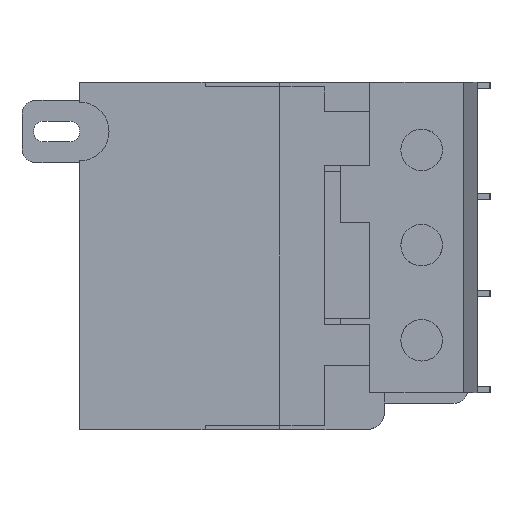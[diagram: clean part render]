
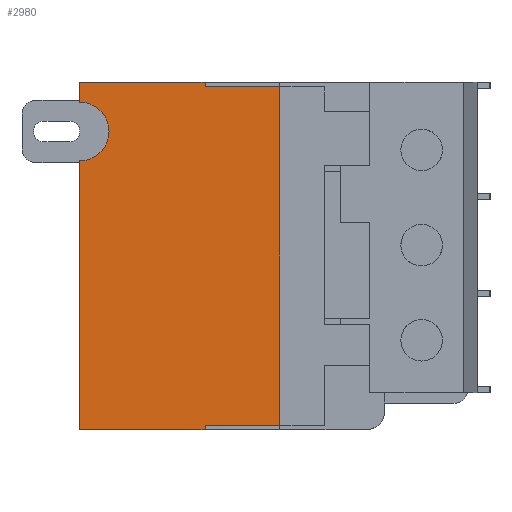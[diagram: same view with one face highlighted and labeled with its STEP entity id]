
A CAD part, left-side view. The second image highlights one B-rep face of the part: STEP entity #2980.
In plain terms, the highlighted planar face has unit normal (-1, 0, 0).
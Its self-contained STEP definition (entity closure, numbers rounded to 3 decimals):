
#48 = CARTESIAN_POINT ( 'NONE',  ( 108.8, 52.2, 75.2 ) ) ;
#185 = VERTEX_POINT ( 'NONE', #2344 ) ;
#188 = VERTEX_POINT ( 'NONE', #2287 ) ;
#195 = VERTEX_POINT ( 'NONE', #2345 ) ;
#273 = CARTESIAN_POINT ( 'NONE',  ( 108.8, 83., 0. ) ) ;
#278 = VERTEX_POINT ( 'NONE', #273 ) ;
#300 = VERTEX_POINT ( 'NONE', #48 ) ;
#755 = FACE_OUTER_BOUND ( 'NONE', #1746, .T. ) ;
#1040 = CARTESIAN_POINT ( 'NONE',  ( 108.8, 83., 75.2 ) ) ;
#1045 = PLANE ( 'NONE',  #5366 ) ;
#1048 = DIRECTION ( 'NONE',  ( 1., 0., 0. ) ) ;
#1049 = DIRECTION ( 'NONE',  ( 0., 0., -1. ) ) ;
#1260 = CARTESIAN_POINT ( 'NONE',  ( 108.8, 52.2, 74.2 ) ) ;
#1441 = CARTESIAN_POINT ( 'NONE',  ( 108.8, 52.2, 75.2 ) ) ;
#1443 = DIRECTION ( 'NONE',  ( 0., 0., -1. ) ) ;
#1746 = EDGE_LOOP ( 'NONE', ( #2544, #2543, #2546, #2545, #2548, #2547, #2550, #2549, #2552, #2551 ) ) ;
#2287 = CARTESIAN_POINT ( 'NONE',  ( 108.8, 83., 70.9 ) ) ;
#2344 = CARTESIAN_POINT ( 'NONE',  ( 108.8, 83., 75.2 ) ) ;
#2345 = CARTESIAN_POINT ( 'NONE',  ( 108.8, 83., 58.2 ) ) ;
#2416 = AXIS2_PLACEMENT_3D ( 'NONE', #4261, #4262, #4263 ) ;
#2543 = ORIENTED_EDGE ( 'NONE', *, *, #5581, .F. ) ;
#2544 = ORIENTED_EDGE ( 'NONE', *, *, #5679, .T. ) ;
#2545 = ORIENTED_EDGE ( 'NONE', *, *, #5582, .T. ) ;
#2546 = ORIENTED_EDGE ( 'NONE', *, *, #5683, .T. ) ;
#2547 = ORIENTED_EDGE ( 'NONE', *, *, #5584, .F. ) ;
#2548 = ORIENTED_EDGE ( 'NONE', *, *, #5583, .F. ) ;
#2549 = ORIENTED_EDGE ( 'NONE', *, *, #5586, .T. ) ;
#2550 = ORIENTED_EDGE ( 'NONE', *, *, #5585, .F. ) ;
#2551 = ORIENTED_EDGE ( 'NONE', *, *, #5587, .F. ) ;
#2552 = ORIENTED_EDGE ( 'NONE', *, *, #3399, .F. ) ;
#2980 = ADVANCED_FACE ( 'NONE', ( #755 ), #1045, .F. ) ;
#3230 = VERTEX_POINT ( 'NONE', #1260 ) ;
#3399 = EDGE_CURVE ( 'NONE', #300, #3230, #4749, .T. ) ;
#3775 = VERTEX_POINT ( 'NONE', #3933 ) ;
#3819 = VERTEX_POINT ( 'NONE', #3977 ) ;
#3868 = VERTEX_POINT ( 'NONE', #4026 ) ;
#3870 = VERTEX_POINT ( 'NONE', #4028 ) ;
#3933 = CARTESIAN_POINT ( 'NONE',  ( 108.8, 52.2, 0. ) ) ;
#3977 = CARTESIAN_POINT ( 'NONE',  ( 108.8, 18.9, 74.2 ) ) ;
#4026 = CARTESIAN_POINT ( 'NONE',  ( 108.8, 18.9, 1. ) ) ;
#4028 = CARTESIAN_POINT ( 'NONE',  ( 108.8, 52.2, 1. ) ) ;
#4248 = DIRECTION ( 'NONE',  ( 0., -1., 0. ) ) ;
#4258 = CARTESIAN_POINT ( 'NONE',  ( 108.8, 52.2, 75.2 ) ) ;
#4259 = CARTESIAN_POINT ( 'NONE',  ( 108.8, 18.9, 1. ) ) ;
#4260 = CARTESIAN_POINT ( 'NONE',  ( 108.8, 83., 0. ) ) ;
#4261 = CARTESIAN_POINT ( 'NONE',  ( 108.8, 83., 64.55 ) ) ;
#4262 = DIRECTION ( 'NONE',  ( -1., 0., 0. ) ) ;
#4263 = DIRECTION ( 'NONE',  ( 0., 0., 1. ) ) ;
#4264 = CARTESIAN_POINT ( 'NONE',  ( 108.8, 18.9, 1. ) ) ;
#4265 = DIRECTION ( 'NONE',  ( 0., 0., -1. ) ) ;
#4266 = CARTESIAN_POINT ( 'NONE',  ( 108.8, 18.9, 74.2 ) ) ;
#4267 = DIRECTION ( 'NONE',  ( 0., 1., 0. ) ) ;
#4269 = DIRECTION ( 'NONE',  ( 0., 0., -1. ) ) ;
#4271 = DIRECTION ( 'NONE',  ( 0., 1., 0. ) ) ;
#4272 = CARTESIAN_POINT ( 'NONE',  ( 108.8, 83., 75.2 ) ) ;
#4273 = DIRECTION ( 'NONE',  ( 0., -1., 0. ) ) ;
#4749 = LINE ( 'NONE', #1441, #4752 ) ;
#4752 = VECTOR ( 'NONE', #1443, 1000. ) ;
#4987 = LINE ( 'NONE', #4260, #5005 ) ;
#5001 = CIRCLE ( 'NONE', #2416, 6.35 ) ;
#5003 = LINE ( 'NONE', #4258, #5007 ) ;
#5004 = LINE ( 'NONE', #4259, #5009 ) ;
#5005 = VECTOR ( 'NONE', #4248, 1000. ) ;
#5006 = LINE ( 'NONE', #4264, #5011 ) ;
#5007 = VECTOR ( 'NONE', #4265, 1000. ) ;
#5008 = LINE ( 'NONE', #4266, #5013 ) ;
#5009 = VECTOR ( 'NONE', #4267, 1000. ) ;
#5011 = VECTOR ( 'NONE', #4269, 1000. ) ;
#5012 = LINE ( 'NONE', #4272, #5015 ) ;
#5013 = VECTOR ( 'NONE', #4271, 1000. ) ;
#5015 = VECTOR ( 'NONE', #4273, 1000. ) ;
#5150 = LINE ( 'NONE', #5816, #5173 ) ;
#5173 = VECTOR ( 'NONE', #5848, 1000. ) ;
#5178 = LINE ( 'NONE', #5855, #5181 ) ;
#5181 = VECTOR ( 'NONE', #5856, 1000. ) ;
#5366 = AXIS2_PLACEMENT_3D ( 'NONE', #1040, #1048, #1049 ) ;
#5581 = EDGE_CURVE ( 'NONE', #195, #188, #5001, .T. ) ;
#5582 = EDGE_CURVE ( 'NONE', #278, #3775, #4987, .T. ) ;
#5583 = EDGE_CURVE ( 'NONE', #3870, #3775, #5003, .T. ) ;
#5584 = EDGE_CURVE ( 'NONE', #3868, #3870, #5004, .T. ) ;
#5585 = EDGE_CURVE ( 'NONE', #3819, #3868, #5006, .T. ) ;
#5586 = EDGE_CURVE ( 'NONE', #3819, #3230, #5008, .T. ) ;
#5587 = EDGE_CURVE ( 'NONE', #185, #300, #5012, .T. ) ;
#5679 = EDGE_CURVE ( 'NONE', #185, #188, #5150, .T. ) ;
#5683 = EDGE_CURVE ( 'NONE', #195, #278, #5178, .T. ) ;
#5816 = CARTESIAN_POINT ( 'NONE',  ( 108.8, 83., 75.2 ) ) ;
#5848 = DIRECTION ( 'NONE',  ( 0., 0., -1. ) ) ;
#5855 = CARTESIAN_POINT ( 'NONE',  ( 108.8, 83., 75.2 ) ) ;
#5856 = DIRECTION ( 'NONE',  ( 0., 0., -1. ) ) ;
